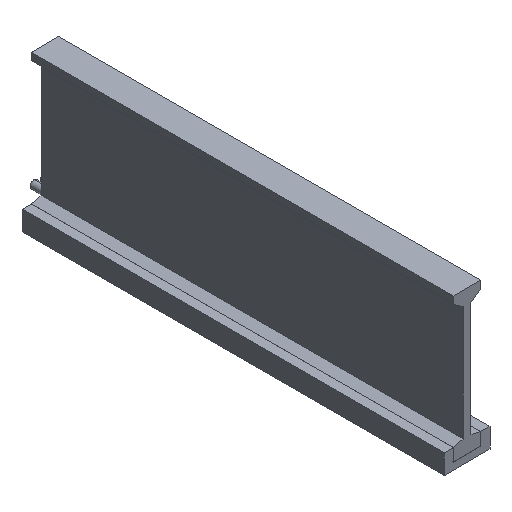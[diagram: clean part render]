
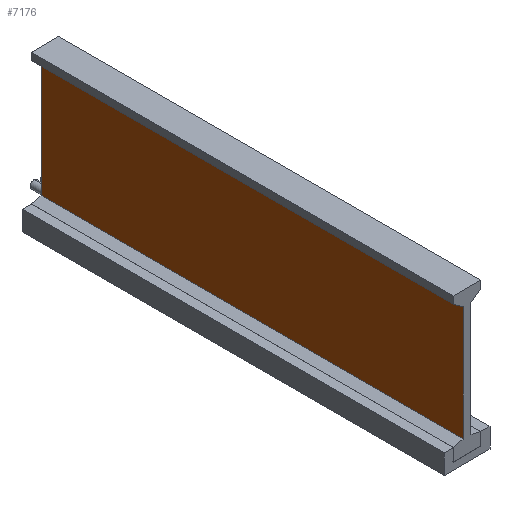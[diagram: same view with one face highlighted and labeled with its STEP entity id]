
A CAD part, isometric view. The second image highlights one B-rep face of the part: STEP entity #7176.
In plain terms, the highlighted planar face has unit normal (-1, 0, 0) as drawn and (1, 0, 0) by its records, which use the part's own axes.
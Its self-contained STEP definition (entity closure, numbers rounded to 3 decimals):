
#95 = LINE ( 'NONE', #2868, #3639 ) ;
#585 = VECTOR ( 'NONE', #1698, 1000. ) ;
#759 = VERTEX_POINT ( 'NONE', #5193 ) ;
#877 = AXIS2_PLACEMENT_3D ( 'NONE', #7111, #6998, #1760 ) ;
#926 = ORIENTED_EDGE ( 'NONE', *, *, #4297, .F. ) ;
#932 = VERTEX_POINT ( 'NONE', #4843 ) ;
#1303 = DIRECTION ( 'NONE',  ( 0., 0., -1. ) ) ;
#1613 = CARTESIAN_POINT ( 'NONE',  ( 21.35, 17.11, 0. ) ) ;
#1633 = CARTESIAN_POINT ( 'NONE',  ( 21.35, 17.11, 0. ) ) ;
#1698 = DIRECTION ( 'NONE',  ( 0., 0., -1. ) ) ;
#1723 = CARTESIAN_POINT ( 'NONE',  ( 21.35, 17.11, 505. ) ) ;
#1725 = DIRECTION ( 'NONE',  ( 0., 1., 0. ) ) ;
#1760 = DIRECTION ( 'NONE',  ( 0., 0., 1. ) ) ;
#1960 = VECTOR ( 'NONE', #5655, 1000. ) ;
#2868 = CARTESIAN_POINT ( 'NONE',  ( 21.35, 17.11, 505. ) ) ;
#3108 = ORIENTED_EDGE ( 'NONE', *, *, #4375, .F. ) ;
#3533 = FACE_OUTER_BOUND ( 'NONE', #7231, .T. ) ;
#3639 = VECTOR ( 'NONE', #1725, 1000. ) ;
#3941 = LINE ( 'NONE', #5622, #585 ) ;
#4059 = LINE ( 'NONE', #4321, #6349 ) ;
#4297 = EDGE_CURVE ( 'NONE', #4608, #932, #95, .T. ) ;
#4321 = CARTESIAN_POINT ( 'NONE',  ( 21.35, 17.11, 505. ) ) ;
#4337 = EDGE_CURVE ( 'NONE', #5128, #759, #4802, .T. ) ;
#4375 = EDGE_CURVE ( 'NONE', #932, #759, #3941, .T. ) ;
#4608 = VERTEX_POINT ( 'NONE', #1723 ) ;
#4802 = LINE ( 'NONE', #1613, #1960 ) ;
#4843 = CARTESIAN_POINT ( 'NONE',  ( 21.35, 154.11, 505. ) ) ;
#5128 = VERTEX_POINT ( 'NONE', #1633 ) ;
#5193 = CARTESIAN_POINT ( 'NONE',  ( 21.35, 154.11, 0. ) ) ;
#5290 = PLANE ( 'NONE',  #877 ) ;
#5622 = CARTESIAN_POINT ( 'NONE',  ( 21.35, 154.11, 505. ) ) ;
#5655 = DIRECTION ( 'NONE',  ( 0., 1., 0. ) ) ;
#6208 = ORIENTED_EDGE ( 'NONE', *, *, #4337, .T. ) ;
#6349 = VECTOR ( 'NONE', #1303, 1000. ) ;
#6360 = EDGE_CURVE ( 'NONE', #4608, #5128, #4059, .T. ) ;
#6694 = ORIENTED_EDGE ( 'NONE', *, *, #6360, .T. ) ;
#6998 = DIRECTION ( 'NONE',  ( -1., 0., 0. ) ) ;
#7111 = CARTESIAN_POINT ( 'NONE',  ( 21.35, 17.11, 505. ) ) ;
#7176 = ADVANCED_FACE ( 'NONE', ( #3533 ), #5290, .F. ) ;
#7231 = EDGE_LOOP ( 'NONE', ( #6208, #3108, #926, #6694 ) ) ;
